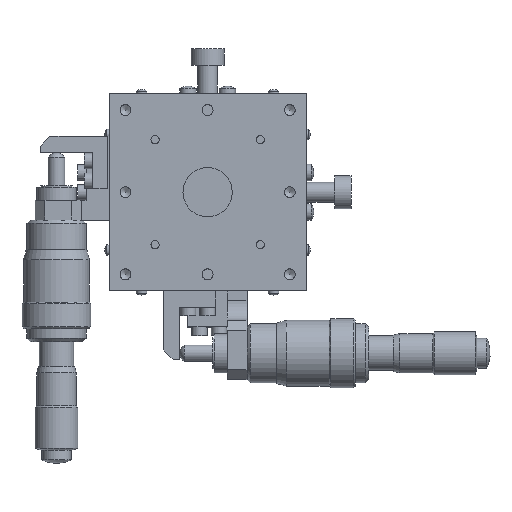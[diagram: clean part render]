
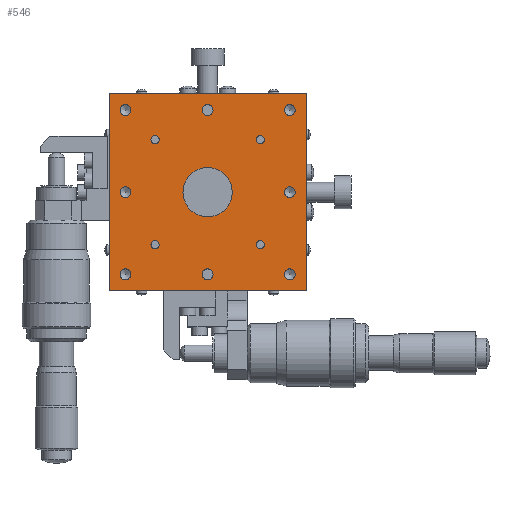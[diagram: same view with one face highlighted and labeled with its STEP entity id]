
A CAD part, top view. The second image highlights one B-rep face of the part: STEP entity #546.
In plain terms, the highlighted planar face has unit normal (0, 0, 1).
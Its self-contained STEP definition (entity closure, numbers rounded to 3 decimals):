
#546 = ADVANCED_FACE( '', ( #1304, #1305, #1306, #1307, #1308, #1309, #1310, #1311, #1312, #1313, #1314, #1315, #1316, #1317 ), #1318, .T. );
#1304 = FACE_BOUND( '', #2329, .T. );
#1305 = FACE_BOUND( '', #2330, .T. );
#1306 = FACE_BOUND( '', #2331, .T. );
#1307 = FACE_BOUND( '', #2332, .T. );
#1308 = FACE_BOUND( '', #2333, .T. );
#1309 = FACE_BOUND( '', #2334, .T. );
#1310 = FACE_BOUND( '', #2335, .T. );
#1311 = FACE_BOUND( '', #2336, .T. );
#1312 = FACE_BOUND( '', #2337, .T. );
#1313 = FACE_BOUND( '', #2338, .T. );
#1314 = FACE_BOUND( '', #2339, .T. );
#1315 = FACE_BOUND( '', #2340, .T. );
#1316 = FACE_OUTER_BOUND( '', #2341, .T. );
#1317 = FACE_BOUND( '', #2342, .T. );
#1318 = PLANE( '', #2343 );
#2329 = EDGE_LOOP( '', ( #3776 ) );
#2330 = EDGE_LOOP( '', ( #3777 ) );
#2331 = EDGE_LOOP( '', ( #3778 ) );
#2332 = EDGE_LOOP( '', ( #3779 ) );
#2333 = EDGE_LOOP( '', ( #3780 ) );
#2334 = EDGE_LOOP( '', ( #3781 ) );
#2335 = EDGE_LOOP( '', ( #3782 ) );
#2336 = EDGE_LOOP( '', ( #3783 ) );
#2337 = EDGE_LOOP( '', ( #3784 ) );
#2338 = EDGE_LOOP( '', ( #3785 ) );
#2339 = EDGE_LOOP( '', ( #3786 ) );
#2340 = EDGE_LOOP( '', ( #3787 ) );
#2341 = EDGE_LOOP( '', ( #3788, #3789, #3790, #3791 ) );
#2342 = EDGE_LOOP( '', ( #3792 ) );
#2343 = AXIS2_PLACEMENT_3D( '', #3793, #3794, #3795 );
#3776 = ORIENTED_EDGE( '', *, *, #5421, .T. );
#3777 = ORIENTED_EDGE( '', *, *, #5178, .T. );
#3778 = ORIENTED_EDGE( '', *, *, #5387, .T. );
#3779 = ORIENTED_EDGE( '', *, *, #5096, .T. );
#3780 = ORIENTED_EDGE( '', *, *, #5385, .T. );
#3781 = ORIENTED_EDGE( '', *, *, #5444, .T. );
#3782 = ORIENTED_EDGE( '', *, *, #5462, .T. );
#3783 = ORIENTED_EDGE( '', *, *, #5395, .T. );
#3784 = ORIENTED_EDGE( '', *, *, #5463, .T. );
#3785 = ORIENTED_EDGE( '', *, *, #5464, .T. );
#3786 = ORIENTED_EDGE( '', *, *, #5465, .T. );
#3787 = ORIENTED_EDGE( '', *, *, #5119, .T. );
#3788 = ORIENTED_EDGE( '', *, *, #5466, .T. );
#3789 = ORIENTED_EDGE( '', *, *, #5366, .T. );
#3790 = ORIENTED_EDGE( '', *, *, #5467, .T. );
#3791 = ORIENTED_EDGE( '', *, *, #5354, .T. );
#3792 = ORIENTED_EDGE( '', *, *, #5468, .T. );
#3793 = CARTESIAN_POINT( '', ( 0., 0., 22. ) );
#3794 = DIRECTION( '', ( 0., 0., 1. ) );
#3795 = DIRECTION( '', ( 1., 0., 0. ) );
#5096 = EDGE_CURVE( '', #5932, #5932, #5933, .T. );
#5119 = EDGE_CURVE( '', #5970, #5970, #5971, .T. );
#5178 = EDGE_CURVE( '', #6070, #6070, #6071, .T. );
#5354 = EDGE_CURVE( '', #6362, #6360, #6363, .T. );
#5366 = EDGE_CURVE( '', #6382, #6380, #6383, .T. );
#5385 = EDGE_CURVE( '', #6412, #6412, #6413, .T. );
#5387 = EDGE_CURVE( '', #6415, #6415, #6416, .T. );
#5395 = EDGE_CURVE( '', #6425, #6425, #6426, .T. );
#5421 = EDGE_CURVE( '', #6469, #6469, #6470, .T. );
#5444 = EDGE_CURVE( '', #6501, #6501, #6502, .T. );
#5462 = EDGE_CURVE( '', #6527, #6527, #6528, .T. );
#5463 = EDGE_CURVE( '', #6529, #6529, #6530, .T. );
#5464 = EDGE_CURVE( '', #6531, #6531, #6532, .T. );
#5465 = EDGE_CURVE( '', #6533, #6533, #6534, .T. );
#5466 = EDGE_CURVE( '', #6360, #6382, #6535, .T. );
#5467 = EDGE_CURVE( '', #6380, #6362, #6536, .T. );
#5468 = EDGE_CURVE( '', #6537, #6537, #6538, .T. );
#5932 = VERTEX_POINT( '', #7130 );
#5933 = CIRCLE( '', #7131, 1.25 );
#5970 = VERTEX_POINT( '', #7178 );
#5971 = CIRCLE( '', #7179, 1.65 );
#6070 = VERTEX_POINT( '', #7306 );
#6071 = CIRCLE( '', #7307, 1.25 );
#6360 = VERTEX_POINT( '', #7664 );
#6362 = VERTEX_POINT( '', #7667 );
#6363 = LINE( '', #7668, #7669 );
#6380 = VERTEX_POINT( '', #7689 );
#6382 = VERTEX_POINT( '', #7692 );
#6383 = LINE( '', #7693, #7694 );
#6412 = VERTEX_POINT( '', #7728 );
#6413 = CIRCLE( '', #7729, 1.65 );
#6415 = VERTEX_POINT( '', #7731 );
#6416 = CIRCLE( '', #7732, 1.25 );
#6425 = VERTEX_POINT( '', #7745 );
#6426 = CIRCLE( '', #7746, 1.65 );
#6469 = VERTEX_POINT( '', #7810 );
#6470 = CIRCLE( '', #7811, 1.25 );
#6501 = VERTEX_POINT( '', #7849 );
#6502 = CIRCLE( '', #7850, 1.65 );
#6527 = VERTEX_POINT( '', #7883 );
#6528 = CIRCLE( '', #7884, 1.65 );
#6529 = VERTEX_POINT( '', #7885 );
#6530 = CIRCLE( '', #7886, 1.65 );
#6531 = VERTEX_POINT( '', #7887 );
#6532 = CIRCLE( '', #7888, 1.65 );
#6533 = VERTEX_POINT( '', #7889 );
#6534 = CIRCLE( '', #7890, 1.65 );
#6535 = LINE( '', #7891, #7892 );
#6536 = LINE( '', #7893, #7894 );
#6537 = VERTEX_POINT( '', #7895 );
#6538 = CIRCLE( '', #7896, 7.5 );
#7130 = CARTESIAN_POINT( '', ( -16., -17.25, 22. ) );
#7131 = AXIS2_PLACEMENT_3D( '', #8488, #8489, #8490 );
#7178 = CARTESIAN_POINT( '', ( -25., -26.65, 22. ) );
#7179 = AXIS2_PLACEMENT_3D( '', #8519, #8520, #8521 );
#7306 = CARTESIAN_POINT( '', ( 16., 14.75, 22. ) );
#7307 = AXIS2_PLACEMENT_3D( '', #8592, #8593, #8594 );
#7664 = CARTESIAN_POINT( '', ( 30., -30., 22. ) );
#7667 = CARTESIAN_POINT( '', ( -30., -30., 22. ) );
#7668 = CARTESIAN_POINT( '', ( 0., -30., 22. ) );
#7669 = VECTOR( '', #8856, 1000. );
#7689 = CARTESIAN_POINT( '', ( -30., 30., 22. ) );
#7692 = CARTESIAN_POINT( '', ( 30., 30., 22. ) );
#7693 = CARTESIAN_POINT( '', ( 0., 30., 22. ) );
#7694 = VECTOR( '', #8873, 1000. );
#7728 = CARTESIAN_POINT( '', ( -25., -1.65, 22. ) );
#7729 = AXIS2_PLACEMENT_3D( '', #8900, #8901, #8902 );
#7731 = CARTESIAN_POINT( '', ( 16., -17.25, 22. ) );
#7732 = AXIS2_PLACEMENT_3D( '', #8903, #8904, #8905 );
#7745 = CARTESIAN_POINT( '', ( 25., 23.35, 22. ) );
#7746 = AXIS2_PLACEMENT_3D( '', #8910, #8911, #8912 );
#7810 = CARTESIAN_POINT( '', ( -16., 14.75, 22. ) );
#7811 = AXIS2_PLACEMENT_3D( '', #8934, #8935, #8936 );
#7849 = CARTESIAN_POINT( '', ( -25., 23.35, 22. ) );
#7850 = AXIS2_PLACEMENT_3D( '', #8962, #8963, #8964 );
#7883 = CARTESIAN_POINT( '', ( 0., 23.35, 22. ) );
#7884 = AXIS2_PLACEMENT_3D( '', #8985, #8986, #8987 );
#7885 = CARTESIAN_POINT( '', ( 25., -1.65, 22. ) );
#7886 = AXIS2_PLACEMENT_3D( '', #8988, #8989, #8990 );
#7887 = CARTESIAN_POINT( '', ( 25., -26.65, 22. ) );
#7888 = AXIS2_PLACEMENT_3D( '', #8991, #8992, #8993 );
#7889 = CARTESIAN_POINT( '', ( 0., -26.65, 22. ) );
#7890 = AXIS2_PLACEMENT_3D( '', #8994, #8995, #8996 );
#7891 = CARTESIAN_POINT( '', ( 30., 0., 22. ) );
#7892 = VECTOR( '', #8997, 1000. );
#7893 = CARTESIAN_POINT( '', ( -30., 0., 22. ) );
#7894 = VECTOR( '', #8998, 1000. );
#7895 = CARTESIAN_POINT( '', ( 7.5, 0., 22. ) );
#7896 = AXIS2_PLACEMENT_3D( '', #8999, #9000, #9001 );
#8488 = CARTESIAN_POINT( '', ( -16., -16., 22. ) );
#8489 = DIRECTION( '', ( 0., 0., -1. ) );
#8490 = DIRECTION( '', ( 0., -1., 0. ) );
#8519 = CARTESIAN_POINT( '', ( -25., -25., 22. ) );
#8520 = DIRECTION( '', ( 0., 0., -1. ) );
#8521 = DIRECTION( '', ( 0., -1., 0. ) );
#8592 = CARTESIAN_POINT( '', ( 16., 16., 22. ) );
#8593 = DIRECTION( '', ( 0., 0., -1. ) );
#8594 = DIRECTION( '', ( 0., -1., 0. ) );
#8856 = DIRECTION( '', ( 1., 0., 0. ) );
#8873 = DIRECTION( '', ( -1., 0., 0. ) );
#8900 = CARTESIAN_POINT( '', ( -25., 0., 22. ) );
#8901 = DIRECTION( '', ( 0., 0., -1. ) );
#8902 = DIRECTION( '', ( 0., -1., 0. ) );
#8903 = CARTESIAN_POINT( '', ( 16., -16., 22. ) );
#8904 = DIRECTION( '', ( 0., 0., -1. ) );
#8905 = DIRECTION( '', ( 0., -1., 0. ) );
#8910 = CARTESIAN_POINT( '', ( 25., 25., 22. ) );
#8911 = DIRECTION( '', ( 0., 0., -1. ) );
#8912 = DIRECTION( '', ( 0., -1., 0. ) );
#8934 = CARTESIAN_POINT( '', ( -16., 16., 22. ) );
#8935 = DIRECTION( '', ( 0., 0., -1. ) );
#8936 = DIRECTION( '', ( 0., -1., 0. ) );
#8962 = CARTESIAN_POINT( '', ( -25., 25., 22. ) );
#8963 = DIRECTION( '', ( 0., 0., -1. ) );
#8964 = DIRECTION( '', ( 0., -1., 0. ) );
#8985 = CARTESIAN_POINT( '', ( 0., 25., 22. ) );
#8986 = DIRECTION( '', ( 0., 0., -1. ) );
#8987 = DIRECTION( '', ( 0., -1., 0. ) );
#8988 = CARTESIAN_POINT( '', ( 25., 0., 22. ) );
#8989 = DIRECTION( '', ( 0., 0., -1. ) );
#8990 = DIRECTION( '', ( 0., -1., 0. ) );
#8991 = CARTESIAN_POINT( '', ( 25., -25., 22. ) );
#8992 = DIRECTION( '', ( 0., 0., -1. ) );
#8993 = DIRECTION( '', ( 0., -1., 0. ) );
#8994 = CARTESIAN_POINT( '', ( 0., -25., 22. ) );
#8995 = DIRECTION( '', ( 0., 0., -1. ) );
#8996 = DIRECTION( '', ( 0., -1., 0. ) );
#8997 = DIRECTION( '', ( 0., 1., 0. ) );
#8998 = DIRECTION( '', ( 0., -1., 0. ) );
#8999 = CARTESIAN_POINT( '', ( 0., 0., 22. ) );
#9000 = DIRECTION( '', ( 0., 0., -1. ) );
#9001 = DIRECTION( '', ( 1., 0., 0. ) );
